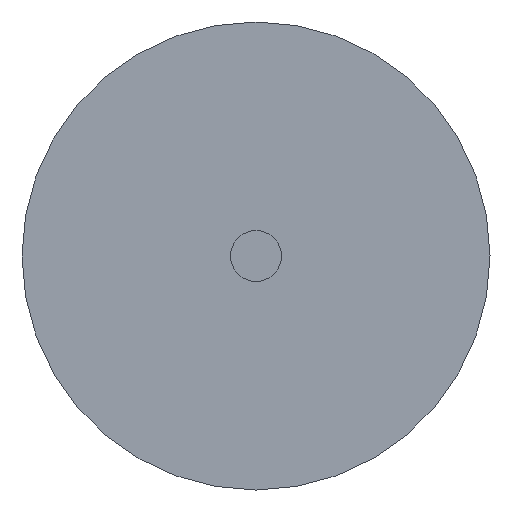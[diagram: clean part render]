
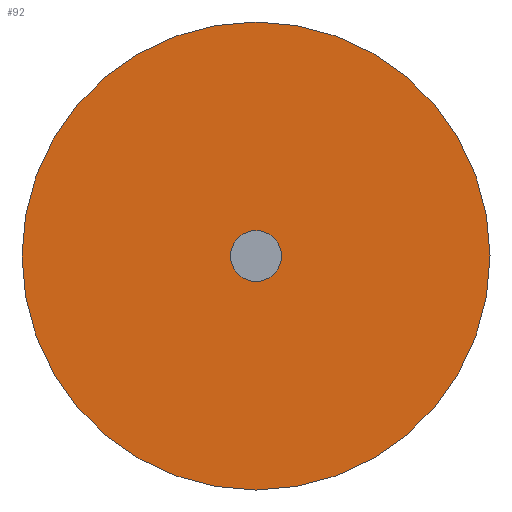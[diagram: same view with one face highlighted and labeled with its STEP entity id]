
A CAD part, left-side view. The second image highlights one B-rep face of the part: STEP entity #92.
In plain terms, the highlighted planar face has unit normal (-1, 0, 0).
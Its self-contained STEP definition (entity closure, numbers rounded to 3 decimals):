
#16=PLANE('',#107);
#26=FACE_OUTER_BOUND('',#36,.T.);
#36=EDGE_LOOP('',(#66));
#47=CIRCLE('',#106,4.19);
#53=VERTEX_POINT('',#155);
#59=EDGE_CURVE('',#53,#53,#47,.T.);
#66=ORIENTED_EDGE('',*,*,#59,.T.);
#92=ADVANCED_FACE('',(#26),#16,.F.);
#106=AXIS2_PLACEMENT_3D('',#156,#125,#126);
#107=AXIS2_PLACEMENT_3D('',#157,#127,#128);
#125=DIRECTION('center_axis',(-1.,0.,0.));
#126=DIRECTION('ref_axis',(0.,-1.,0.));
#127=DIRECTION('center_axis',(1.,0.,0.));
#128=DIRECTION('ref_axis',(0.,0.,-1.));
#155=CARTESIAN_POINT('',(0.,4.19,0.));
#156=CARTESIAN_POINT('Origin',(0.,0.,0.));
#157=CARTESIAN_POINT('Origin',(0.,0.,0.));
